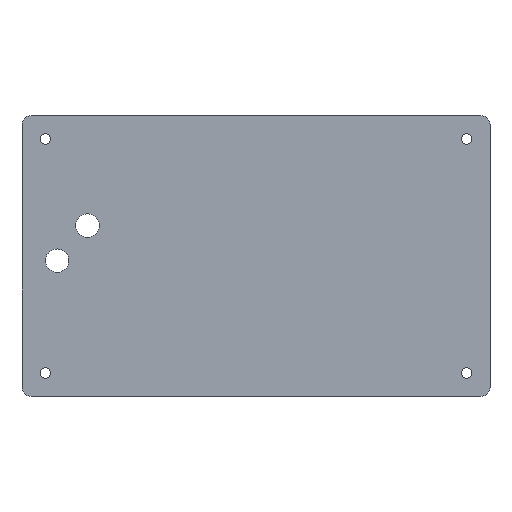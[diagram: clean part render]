
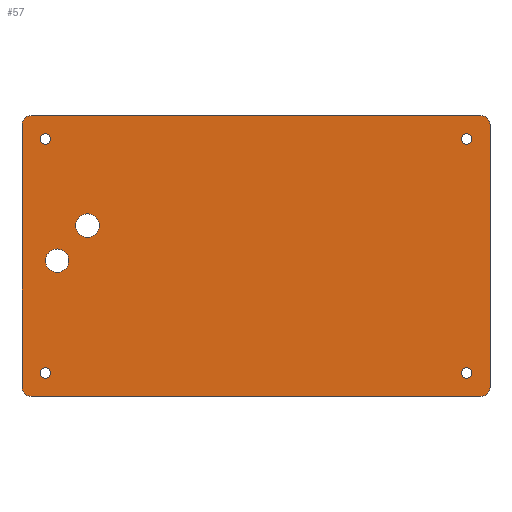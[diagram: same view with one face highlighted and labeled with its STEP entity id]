
A CAD part, top view. The second image highlights one B-rep face of the part: STEP entity #57.
In plain terms, the highlighted planar face has unit normal (0, 0, 1).
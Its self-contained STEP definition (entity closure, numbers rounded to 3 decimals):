
#21 = EDGE_CURVE('',#22,#24,#26,.T.);
#22 = VERTEX_POINT('',#23);
#23 = CARTESIAN_POINT('',(-100.,-162.,101.));
#24 = VERTEX_POINT('',#25);
#25 = CARTESIAN_POINT('',(-100.,-50.,101.));
#26 = LINE('',#27,#28);
#27 = CARTESIAN_POINT('',(-100.,-166.,101.));
#28 = VECTOR('',#29,1.);
#29 = DIRECTION('',(0.,1.,0.));
#57 = ADVANCED_FACE('',(#58,#119,#130,#141,#152,#163,#174),#185,.T.);
#58 = FACE_BOUND('',#59,.T.);
#59 = EDGE_LOOP('',(#60,#61,#70,#78,#87,#95,#104,#112));
#60 = ORIENTED_EDGE('',*,*,#21,.F.);
#61 = ORIENTED_EDGE('',*,*,#62,.T.);
#62 = EDGE_CURVE('',#22,#63,#65,.T.);
#63 = VERTEX_POINT('',#64);
#64 = CARTESIAN_POINT('',(-96.,-166.,101.));
#65 = CIRCLE('',#66,4.);
#66 = AXIS2_PLACEMENT_3D('',#67,#68,#69);
#67 = CARTESIAN_POINT('',(-96.,-162.,101.));
#68 = DIRECTION('',(-0.,0.,1.));
#69 = DIRECTION('',(0.,-1.,0.));
#70 = ORIENTED_EDGE('',*,*,#71,.T.);
#71 = EDGE_CURVE('',#63,#72,#74,.T.);
#72 = VERTEX_POINT('',#73);
#73 = CARTESIAN_POINT('',(96.,-166.,101.));
#74 = LINE('',#75,#76);
#75 = CARTESIAN_POINT('',(-100.,-166.,101.));
#76 = VECTOR('',#77,1.);
#77 = DIRECTION('',(1.,0.,0.));
#78 = ORIENTED_EDGE('',*,*,#79,.F.);
#79 = EDGE_CURVE('',#80,#72,#82,.T.);
#80 = VERTEX_POINT('',#81);
#81 = CARTESIAN_POINT('',(100.,-162.,101.));
#82 = CIRCLE('',#83,4.);
#83 = AXIS2_PLACEMENT_3D('',#84,#85,#86);
#84 = CARTESIAN_POINT('',(96.,-162.,101.));
#85 = DIRECTION('',(-0.,-0.,-1.));
#86 = DIRECTION('',(0.,-1.,0.));
#87 = ORIENTED_EDGE('',*,*,#88,.T.);
#88 = EDGE_CURVE('',#80,#89,#91,.T.);
#89 = VERTEX_POINT('',#90);
#90 = CARTESIAN_POINT('',(100.,-50.,101.));
#91 = LINE('',#92,#93);
#92 = CARTESIAN_POINT('',(100.,-166.,101.));
#93 = VECTOR('',#94,1.);
#94 = DIRECTION('',(0.,1.,0.));
#95 = ORIENTED_EDGE('',*,*,#96,.T.);
#96 = EDGE_CURVE('',#89,#97,#99,.T.);
#97 = VERTEX_POINT('',#98);
#98 = CARTESIAN_POINT('',(96.,-46.,101.));
#99 = CIRCLE('',#100,4.);
#100 = AXIS2_PLACEMENT_3D('',#101,#102,#103);
#101 = CARTESIAN_POINT('',(96.,-50.,101.));
#102 = DIRECTION('',(-0.,0.,1.));
#103 = DIRECTION('',(0.,-1.,0.));
#104 = ORIENTED_EDGE('',*,*,#105,.F.);
#105 = EDGE_CURVE('',#106,#97,#108,.T.);
#106 = VERTEX_POINT('',#107);
#107 = CARTESIAN_POINT('',(-96.,-46.,101.));
#108 = LINE('',#109,#110);
#109 = CARTESIAN_POINT('',(-100.,-46.,101.));
#110 = VECTOR('',#111,1.);
#111 = DIRECTION('',(1.,0.,0.));
#112 = ORIENTED_EDGE('',*,*,#113,.F.);
#113 = EDGE_CURVE('',#24,#106,#114,.T.);
#114 = CIRCLE('',#115,4.);
#115 = AXIS2_PLACEMENT_3D('',#116,#117,#118);
#116 = CARTESIAN_POINT('',(-96.,-50.,101.));
#117 = DIRECTION('',(-0.,-0.,-1.));
#118 = DIRECTION('',(0.,-1.,0.));
#119 = FACE_BOUND('',#120,.T.);
#120 = EDGE_LOOP('',(#121));
#121 = ORIENTED_EDGE('',*,*,#122,.F.);
#122 = EDGE_CURVE('',#123,#123,#125,.T.);
#123 = VERTEX_POINT('',#124);
#124 = CARTESIAN_POINT('',(-87.75,-156.,101.));
#125 = CIRCLE('',#126,2.25);
#126 = AXIS2_PLACEMENT_3D('',#127,#128,#129);
#127 = CARTESIAN_POINT('',(-90.,-156.,101.));
#128 = DIRECTION('',(0.,0.,1.));
#129 = DIRECTION('',(1.,0.,0.));
#130 = FACE_BOUND('',#131,.T.);
#131 = EDGE_LOOP('',(#132));
#132 = ORIENTED_EDGE('',*,*,#133,.F.);
#133 = EDGE_CURVE('',#134,#134,#136,.T.);
#134 = VERTEX_POINT('',#135);
#135 = CARTESIAN_POINT('',(-80.,-108.,101.));
#136 = CIRCLE('',#137,5.);
#137 = AXIS2_PLACEMENT_3D('',#138,#139,#140);
#138 = CARTESIAN_POINT('',(-85.,-108.,101.));
#139 = DIRECTION('',(0.,0.,1.));
#140 = DIRECTION('',(1.,0.,0.));
#141 = FACE_BOUND('',#142,.T.);
#142 = EDGE_LOOP('',(#143));
#143 = ORIENTED_EDGE('',*,*,#144,.F.);
#144 = EDGE_CURVE('',#145,#145,#147,.T.);
#145 = VERTEX_POINT('',#146);
#146 = CARTESIAN_POINT('',(92.25,-156.,101.));
#147 = CIRCLE('',#148,2.25);
#148 = AXIS2_PLACEMENT_3D('',#149,#150,#151);
#149 = CARTESIAN_POINT('',(90.,-156.,101.));
#150 = DIRECTION('',(0.,0.,1.));
#151 = DIRECTION('',(1.,0.,0.));
#152 = FACE_BOUND('',#153,.T.);
#153 = EDGE_LOOP('',(#154));
#154 = ORIENTED_EDGE('',*,*,#155,.F.);
#155 = EDGE_CURVE('',#156,#156,#158,.T.);
#156 = VERTEX_POINT('',#157);
#157 = CARTESIAN_POINT('',(-67.,-93.,101.));
#158 = CIRCLE('',#159,5.);
#159 = AXIS2_PLACEMENT_3D('',#160,#161,#162);
#160 = CARTESIAN_POINT('',(-72.,-93.,101.));
#161 = DIRECTION('',(0.,0.,1.));
#162 = DIRECTION('',(1.,0.,0.));
#163 = FACE_BOUND('',#164,.T.);
#164 = EDGE_LOOP('',(#165));
#165 = ORIENTED_EDGE('',*,*,#166,.F.);
#166 = EDGE_CURVE('',#167,#167,#169,.T.);
#167 = VERTEX_POINT('',#168);
#168 = CARTESIAN_POINT('',(-87.75,-56.,101.));
#169 = CIRCLE('',#170,2.25);
#170 = AXIS2_PLACEMENT_3D('',#171,#172,#173);
#171 = CARTESIAN_POINT('',(-90.,-56.,101.));
#172 = DIRECTION('',(0.,0.,1.));
#173 = DIRECTION('',(1.,0.,0.));
#174 = FACE_BOUND('',#175,.T.);
#175 = EDGE_LOOP('',(#176));
#176 = ORIENTED_EDGE('',*,*,#177,.F.);
#177 = EDGE_CURVE('',#178,#178,#180,.T.);
#178 = VERTEX_POINT('',#179);
#179 = CARTESIAN_POINT('',(92.25,-56.,101.));
#180 = CIRCLE('',#181,2.25);
#181 = AXIS2_PLACEMENT_3D('',#182,#183,#184);
#182 = CARTESIAN_POINT('',(90.,-56.,101.));
#183 = DIRECTION('',(0.,0.,1.));
#184 = DIRECTION('',(1.,0.,0.));
#185 = PLANE('',#186);
#186 = AXIS2_PLACEMENT_3D('',#187,#188,#189);
#187 = CARTESIAN_POINT('',(-100.,-166.,101.));
#188 = DIRECTION('',(0.,0.,1.));
#189 = DIRECTION('',(1.,0.,0.));
